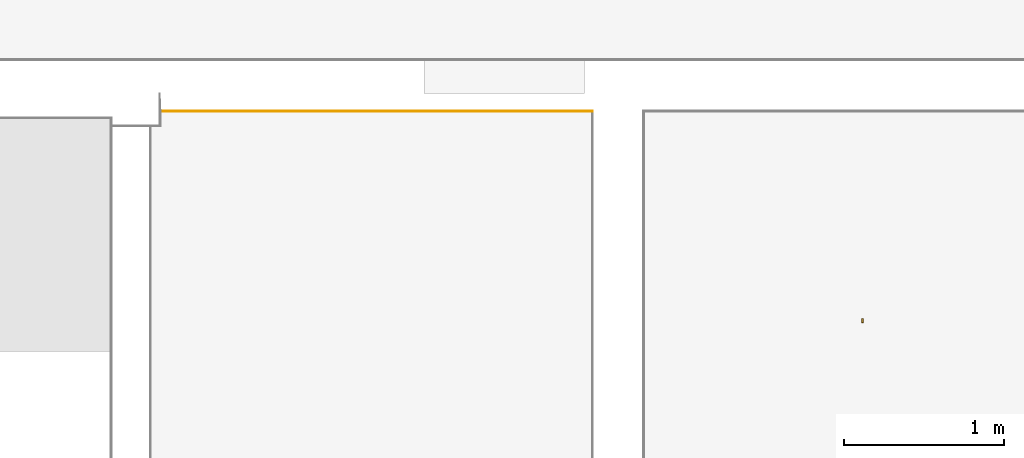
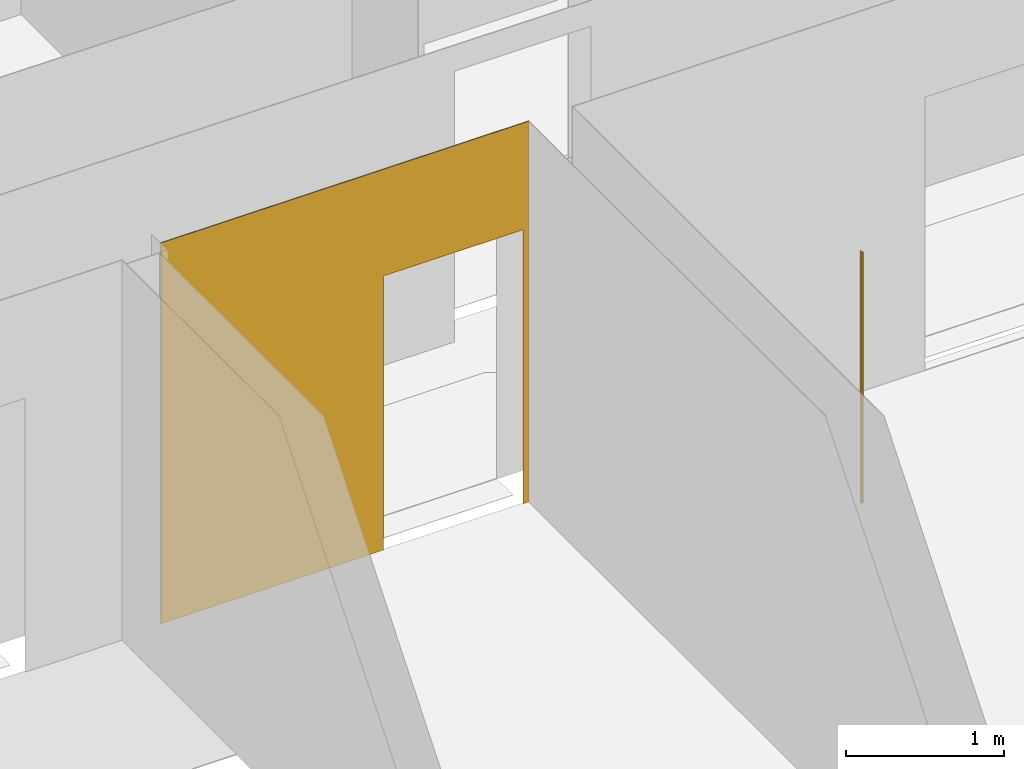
# One storey, part 4 of 16: 2 coverings, 1 opening.
"""IFC2X3 building model written with IfcOpenShell, lengths in millimetres."""

from ifc_helpers import new_model, entity, si_unit, converted_unit, derived_unit, money_unit, direction, frame, origin_with_axes, origin_2d_with_axis, place, context, subcontext, project, spatial, polyline, rectangle, outline, extrude, faceted_brep, source, transform, mapped, material, type_object, element, save


model = new_model("IFC2X3")

# Units and contexts
model_context = context("Model", 3, precision=0.01, world=origin_with_axes(), true_north=direction((0.0, 1.0)))
body_context = subcontext(model_context, "Body", "Model", "MODEL_VIEW")
ifc_project = project(units=[si_unit("LENGTHUNIT", "METRE", prefix="MILLI"), si_unit("AREAUNIT", "SQUARE_METRE"), si_unit("VOLUMEUNIT", "CUBIC_METRE"), converted_unit("PLANEANGLEUNIT", "DEGREE", entity("IfcPlaneAngleMeasure", 0.0174532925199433), si_unit("PLANEANGLEUNIT", "RADIAN"), dimensions=[0, 0, 0, 0, 0, 0, 0]), money_unit("EUR"), converted_unit("TIMEUNIT", "Year", entity("IfcTimeMeasure", 31556926.0), si_unit("TIMEUNIT", "SECOND"), dimensions=[0, 0, 1, 0, 0, 0, 0]), si_unit("MASSUNIT", "GRAM", prefix="KILO"), si_unit("THERMODYNAMICTEMPERATUREUNIT", "DEGREE_CELSIUS"), si_unit("LUMINOUSINTENSITYUNIT", "LUMEN"), si_unit("ENERGYUNIT", "JOULE", prefix="MEGA"), derived_unit("THERMALCONDUCTANCEUNIT", [(si_unit("POWERUNIT", "WATT"), 1), (si_unit("LENGTHUNIT", "METRE"), -1), (si_unit("THERMODYNAMICTEMPERATUREUNIT", "KELVIN"), -1)]), derived_unit("SPECIFICHEATCAPACITYUNIT", [(si_unit("ENERGYUNIT", "JOULE"), 1), (si_unit("MASSUNIT", "GRAM", prefix="KILO"), -1), (si_unit("THERMODYNAMICTEMPERATUREUNIT", "KELVIN"), -1)]), derived_unit("MASSDENSITYUNIT", [(si_unit("MASSUNIT", "GRAM", prefix="KILO"), 1), (si_unit("VOLUMEUNIT", "CUBIC_METRE"), -1)])], contexts=[model_context])

# Site, building, storey
site_placement = place(None, origin_with_axes())
site = spatial("IfcSite", under=ifc_project, at=site_placement, Name="Paldiski mnt 245/1, Tallinn, Harjumaa", CompositionType="COMPLEX")
building_placement = place(site_placement, origin_with_axes())
building = spatial("IfcBuilding", under=site, at=building_placement, Name="RKAS Hoone üldnimetus (kasutust iseloomustav) -> IFC Project Manager -> SOLIBRI", CompositionType="ELEMENT")
storey_placement = place(building_placement, frame((0.0, 0.0, 3300.0), z_axis=(0.0, 0.0, 1.0), x_axis=(1.0, 0.0, 0.0)))
storey = spatial("IfcBuildingStorey", under=building, at=storey_placement, Name="Teine korrus", CompositionType="ELEMENT", Elevation=3300.0)

# Covering
ifc_material_1 = material(Name="GENERIC - PREFABRICATED")
covering_type_1 = type_object("IfcCoveringType", Name="GENERIC - PREFABRICATED", PredefinedType="CLADDING")
shared_shape = source(origin_with_axes(), body_context, "Body", "Brep", [
    faceted_brep([(0.0, 0.9999999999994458, 0.0), (0.0, -24.00000000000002, 0.0), (0.0, -24.00000000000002, 1940.0), (0.0, 0.9999999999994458, 1940.0), (12.00000000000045, 0.9999999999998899, 0.0), (12.00000000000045, -24.00000000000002, 0.0), (12.00000000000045, -24.00000000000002, 1940.0), (12.00000000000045, 0.9999999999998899, 1940.0)], [[[0, 1, 2, 3]], [[1, 0, 4, 5]], [[2, 1, 5, 6]], [[2, 6, 7, 3]], [[0, 3, 7, 4]], [[6, 5, 4, 7]]]),
])
covering_1_placement = place(storey_placement, frame((-39911.56232209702, -7686.060822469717, 200.0000000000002), z_axis=(0.0, 0.0, 1.0), x_axis=(1.0, 0.0, 0.0)))
element("IfcCovering", 1, at=covering_1_placement, inside=storey, type_object=covering_type_1, material=ifc_material_1, Name="SM5", PredefinedType="CLADDING", context=body_context, shape_type="MappedRepresentation", body=[
    mapped(shared_shape, transform((0.0, 0.0, 0.0))),
])

# Covering, opening
ifc_material_2 = material(Name="SA- Värv SM6(kollane)")
covering_type_2 = type_object("IfcCoveringType", Name="SA- Värv SM6(kollane) 5", PredefinedType="CLADDING")
covering_2_placement = place(storey_placement, frame((-44289.99999598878, -6387.99999999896, 0.0), z_axis=(0.0, 0.0, 1.0), x_axis=(1.0, 0.0, 0.0)))
covering_2 = element("IfcCovering", 2, at=covering_2_placement, inside=storey, type_object=covering_type_2, material=ifc_material_2, Name="SM6", PredefinedType="CLADDING", context=body_context, shape_type="SweptSolid", body=[
    extrude(outline(polyline([(4.999999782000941, -4.999999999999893), (2701.999995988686, -4.999999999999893), (2701.999995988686, 0.0), (5.000000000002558, 0.0), (4.999999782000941, -4.999999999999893)])), origin_with_axes(), (0.0, 0.0, 1.0), 2950.0),
])
opening_placement = place(covering_2_placement, frame((44289.99999598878, 6387.99999999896, -3300.0), z_axis=(0.0, 0.0, 1.0), x_axis=(1.0, 0.0, 0.0)))
element("IfcOpeningElement", 3, at=opening_placement, cuts=covering_2, Name="AVA", ObjectType="OPENING", context=body_context, shape_type="SweptSolid", body=[
    extrude(rectangle(XDim=1022.749729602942, YDim=2127.227953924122, at=origin_2d_with_axis()), frame((-42143.11412798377, -6397.999999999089, 4360.032973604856), z_axis=(0.0, -1.0, 0.0), x_axis=(1.0, 0.0, 0.0)), (0.0, 0.0, -1.0), 15.00000000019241),
])

save(model, "model.ifc")
